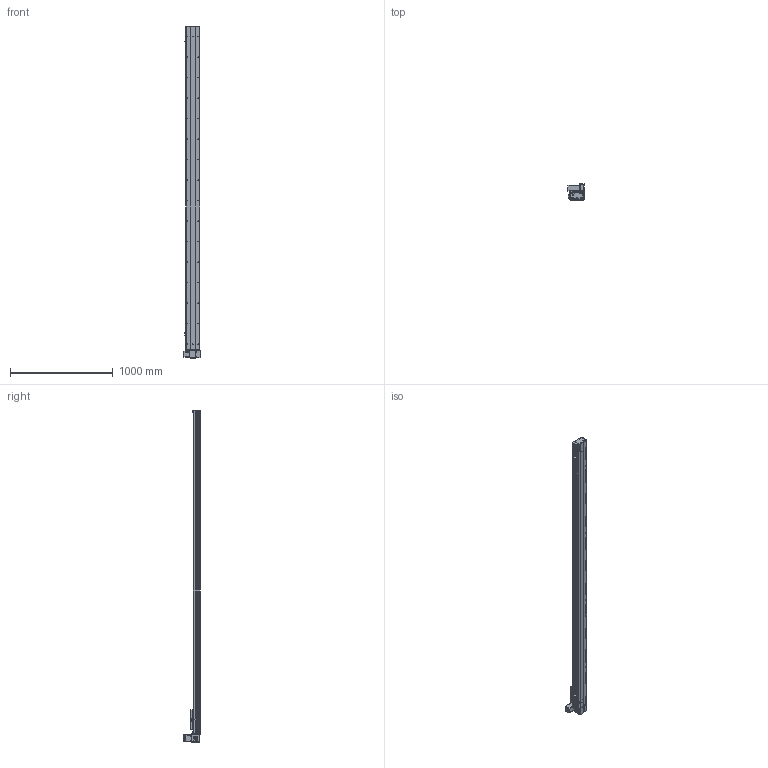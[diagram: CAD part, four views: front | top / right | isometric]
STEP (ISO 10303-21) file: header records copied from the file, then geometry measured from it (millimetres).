
FILE_DESCRIPTION (( 'STEP AP203' ), '1' );
FILE_NAME ('Y135CB-D90-S2850-UL-P400W.STEP', '2020-02-18T08:13:34', ( '微软用户' ), ( '微软中国' ), 'SwSTEP 2.0', 'SolidWorks 2017', '' );
FILE_SCHEMA (( 'CONFIG_CONTROL_DESIGN' ));
Length unit declared in the file: millimetre
Products named in the file (18): Y10B-耜蚾蟀諉啣----; san松下电机400不带刹车----; 00B-俋欶BM--; 5CB --掛极耜裔啣-; Y10B--々湍喘謫眊--666; C-詩湍揤踡え-陔; Y135CB-耜裔; Y135CB-D90-S2850-UL-P400W; 135CB--詩湍-CE; 135CB---遴掛极.-; Y100-135俋离換覜ん--; 35CB---喘謫眊楊擘啣; Y135C-陔俋离換覜結え-; 0B-埴倛裔啣; 5C--俋欶; 0B-源倛裔啣; C-雄赽釱--; 0B-萇儂楊擘啣
Assembly tree (21 placements, depth 2):
  Y135CB-D90-S2850-UL-P400W
    Y135CB-耜裔
    135CB---遴掛极.-
    35CB---喘謫眊楊擘啣
    0B-埴倛裔啣
    0B-源倛裔啣
    0B-萇儂楊擘啣
    san松下电机400不带刹车----
    5CB --掛极耜裔啣-  x2
    C-詩湍揤踡え-陔  x2
    135CB--詩湍-CE
    Y100-135俋离換覜ん--  x3
    Y135C-陔俋离換覜結え-
    5C--俋欶
    C-雄赽釱--
    Y10B-耜蚾蟀諉啣----
    00B-俋欶BM--
    Y10B--々湍喘謫眊--666
Bounding box: 157 x 158.7 x 3238 mm (x, y, z)
Volume: 9190795.4 mm3; surface area: 3644860.2 mm2
Topology: 21 solids, 21 shells, 981 faces, 2689 edges, 1782 vertices
Faces by surface type: cylinder 509, plane 456, cone 16
Entity records: 31167 total; most frequent: CARTESIAN_POINT 5208, DIRECTION 5181, ORIENTED_EDGE 4854, EDGE_CURVE 2427, AXIS2_PLACEMENT_3D 1903, VERTEX_POINT 1610, LINE 1375, VECTOR 1375
